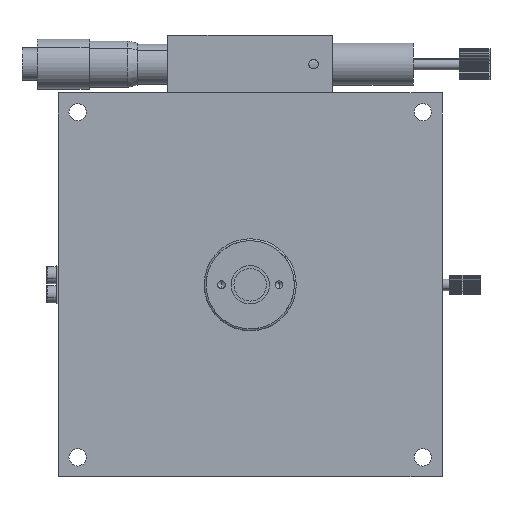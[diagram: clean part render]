
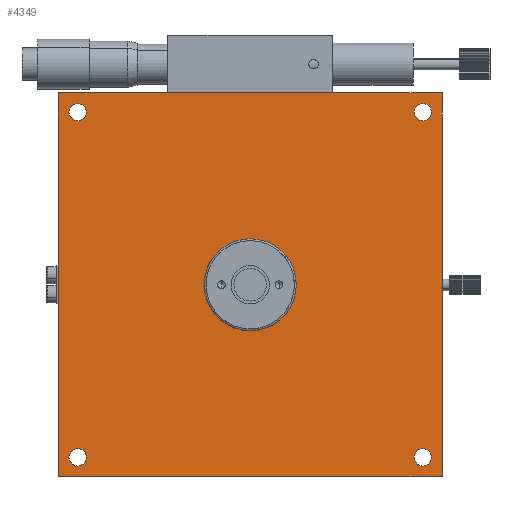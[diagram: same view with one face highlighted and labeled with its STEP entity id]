
A CAD part, front view. The second image highlights one B-rep face of the part: STEP entity #4349.
In plain terms, the highlighted planar face has unit normal (0, -1, 0).
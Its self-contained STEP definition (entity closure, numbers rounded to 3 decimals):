
#77 = CARTESIAN_POINT ( 'NONE',  ( 48.406, -8.658, -45. ) ) ;
#355 = EDGE_CURVE ( 'NONE', #3310, #3269, #11134, .T. ) ;
#428 = DIRECTION ( 'NONE',  ( 0., 0., 1. ) ) ;
#462 = ORIENTED_EDGE ( 'NONE', *, *, #5047, .T. ) ;
#494 = CARTESIAN_POINT ( 'NONE',  ( 48.406, -8.658, -47.25 ) ) ;
#558 = CARTESIAN_POINT ( 'NONE',  ( -41.594, -8.658, 45. ) ) ;
#591 = EDGE_CURVE ( 'NONE', #3269, #3310, #10978, .T. ) ;
#599 = CIRCLE ( 'NONE', #6484, 2.25 ) ;
#788 = EDGE_CURVE ( 'NONE', #6440, #1341, #7957, .T. ) ;
#1150 = ORIENTED_EDGE ( 'NONE', *, *, #8496, .F. ) ;
#1196 = LINE ( 'NONE', #4458, #11166 ) ;
#1285 = EDGE_LOOP ( 'NONE', ( #8394, #7819 ) ) ;
#1341 = VERTEX_POINT ( 'NONE', #7207 ) ;
#1480 = VERTEX_POINT ( 'NONE', #10465 ) ;
#1482 = CARTESIAN_POINT ( 'NONE',  ( -41.594, -8.658, -42.75 ) ) ;
#1499 = VERTEX_POINT ( 'NONE', #4611 ) ;
#1554 = DIRECTION ( 'NONE',  ( 0., 0., 1. ) ) ;
#1615 = AXIS2_PLACEMENT_3D ( 'NONE', #11067, #4108, #5117 ) ;
#1948 = DIRECTION ( 'NONE',  ( 0., 0., 1. ) ) ;
#2038 = DIRECTION ( 'NONE',  ( 0., 1., 0. ) ) ;
#2084 = DIRECTION ( 'NONE',  ( 0., 0., 1. ) ) ;
#2115 = EDGE_CURVE ( 'NONE', #2877, #12310, #599, .T. ) ;
#2171 = FACE_BOUND ( 'NONE', #5684, .T. ) ;
#2174 = AXIS2_PLACEMENT_3D ( 'NONE', #2868, #2038, #1948 ) ;
#2277 = EDGE_CURVE ( 'NONE', #9054, #9121, #11664, .T. ) ;
#2482 = DIRECTION ( 'NONE',  ( 0., 0., 1. ) ) ;
#2511 = ORIENTED_EDGE ( 'NONE', *, *, #4462, .F. ) ;
#2582 = CARTESIAN_POINT ( 'NONE',  ( 48.406, -8.658, -42.75 ) ) ;
#2781 = DIRECTION ( 'NONE',  ( 1., 0., 0. ) ) ;
#2792 = ORIENTED_EDGE ( 'NONE', *, *, #7949, .F. ) ;
#2864 = EDGE_LOOP ( 'NONE', ( #1150, #10657, #2792, #2511 ) ) ;
#2868 = CARTESIAN_POINT ( 'NONE',  ( 48.406, -8.658, 45. ) ) ;
#2877 = VERTEX_POINT ( 'NONE', #12685 ) ;
#2907 = VECTOR ( 'NONE', #12574, 1000. ) ;
#2911 = DIRECTION ( 'NONE',  ( 0., 1., 0. ) ) ;
#3086 = CIRCLE ( 'NONE', #2174, 2.25 ) ;
#3095 = CARTESIAN_POINT ( 'NONE',  ( -41.594, -8.658, -45. ) ) ;
#3237 = DIRECTION ( 'NONE',  ( 0., 1., 0. ) ) ;
#3269 = VERTEX_POINT ( 'NONE', #1482 ) ;
#3310 = VERTEX_POINT ( 'NONE', #4081 ) ;
#3480 = EDGE_LOOP ( 'NONE', ( #12291, #5126 ) ) ;
#3546 = CIRCLE ( 'NONE', #9347, 2.25 ) ;
#3623 = DIRECTION ( 'NONE',  ( 0., 1., 0. ) ) ;
#3674 = CARTESIAN_POINT ( 'NONE',  ( 48.406, -8.658, 45. ) ) ;
#3737 = ORIENTED_EDGE ( 'NONE', *, *, #788, .F. ) ;
#3757 = CARTESIAN_POINT ( 'NONE',  ( 3.406, -8.658, 12. ) ) ;
#3851 = EDGE_CURVE ( 'NONE', #7655, #11463, #8493, .T. ) ;
#4081 = CARTESIAN_POINT ( 'NONE',  ( -41.594, -8.658, -47.25 ) ) ;
#4108 = DIRECTION ( 'NONE',  ( 0., 1., 0. ) ) ;
#4336 = CIRCLE ( 'NONE', #12234, 2.25 ) ;
#4349 = ADVANCED_FACE ( 'NONE', ( #2171, #4834, #10731, #12449, #9793, #7143 ), #10820, .F. ) ;
#4458 = CARTESIAN_POINT ( 'NONE',  ( -46.594, -8.658, -50. ) ) ;
#4462 = EDGE_CURVE ( 'NONE', #7026, #1499, #5595, .T. ) ;
#4611 = CARTESIAN_POINT ( 'NONE',  ( -46.594, -8.658, -50. ) ) ;
#4736 = CARTESIAN_POINT ( 'NONE',  ( 48.406, -8.658, 42.75 ) ) ;
#4824 = CARTESIAN_POINT ( 'NONE',  ( -41.594, -8.658, 45. ) ) ;
#4834 = FACE_BOUND ( 'NONE', #7467, .T. ) ;
#4989 = DIRECTION ( 'NONE',  ( 0., -1., 0. ) ) ;
#5047 = EDGE_CURVE ( 'NONE', #9121, #9054, #4336, .T. ) ;
#5117 = DIRECTION ( 'NONE',  ( 0., 0., 1. ) ) ;
#5126 = ORIENTED_EDGE ( 'NONE', *, *, #7438, .T. ) ;
#5344 = AXIS2_PLACEMENT_3D ( 'NONE', #4824, #11766, #5816 ) ;
#5378 = ORIENTED_EDGE ( 'NONE', *, *, #2277, .T. ) ;
#5442 = CARTESIAN_POINT ( 'NONE',  ( -46.594, -8.658, -50. ) ) ;
#5595 = LINE ( 'NONE', #5442, #10559 ) ;
#5684 = EDGE_LOOP ( 'NONE', ( #8293, #9188 ) ) ;
#5816 = DIRECTION ( 'NONE',  ( 0., 0., 1. ) ) ;
#5956 = CARTESIAN_POINT ( 'NONE',  ( -41.594, -8.658, 42.75 ) ) ;
#5973 = DIRECTION ( 'NONE',  ( 0., 1., 0. ) ) ;
#6322 = CIRCLE ( 'NONE', #5344, 2.25 ) ;
#6394 = DIRECTION ( 'NONE',  ( 0., -1., 0. ) ) ;
#6440 = VERTEX_POINT ( 'NONE', #3757 ) ;
#6484 = AXIS2_PLACEMENT_3D ( 'NONE', #558, #8527, #1554 ) ;
#6728 = CARTESIAN_POINT ( 'NONE',  ( -46.594, -8.658, 50. ) ) ;
#6879 = DIRECTION ( 'NONE',  ( 0., 0., 1. ) ) ;
#6939 = VERTEX_POINT ( 'NONE', #4736 ) ;
#7026 = VERTEX_POINT ( 'NONE', #8255 ) ;
#7143 = FACE_OUTER_BOUND ( 'NONE', #2864, .T. ) ;
#7207 = CARTESIAN_POINT ( 'NONE',  ( 3.406, -8.658, -12. ) ) ;
#7357 = VECTOR ( 'NONE', #2781, 1000. ) ;
#7438 = EDGE_CURVE ( 'NONE', #6939, #1480, #3546, .T. ) ;
#7467 = EDGE_LOOP ( 'NONE', ( #462, #5378 ) ) ;
#7612 = AXIS2_PLACEMENT_3D ( 'NONE', #3095, #8036, #9068 ) ;
#7655 = VERTEX_POINT ( 'NONE', #9871 ) ;
#7725 = EDGE_CURVE ( 'NONE', #1480, #6939, #3086, .T. ) ;
#7757 = AXIS2_PLACEMENT_3D ( 'NONE', #12833, #2911, #9864 ) ;
#7819 = ORIENTED_EDGE ( 'NONE', *, *, #12775, .T. ) ;
#7870 = DIRECTION ( 'NONE',  ( 0., 0., 1. ) ) ;
#7942 = EDGE_LOOP ( 'NONE', ( #3737, #10447 ) ) ;
#7949 = EDGE_CURVE ( 'NONE', #1499, #7655, #1196, .T. ) ;
#7957 = CIRCLE ( 'NONE', #8046, 12. ) ;
#8036 = DIRECTION ( 'NONE',  ( 0., 1., 0. ) ) ;
#8046 = AXIS2_PLACEMENT_3D ( 'NONE', #10943, #4989, #7870 ) ;
#8255 = CARTESIAN_POINT ( 'NONE',  ( 53.406, -8.658, -50. ) ) ;
#8293 = ORIENTED_EDGE ( 'NONE', *, *, #591, .T. ) ;
#8394 = ORIENTED_EDGE ( 'NONE', *, *, #2115, .T. ) ;
#8493 = LINE ( 'NONE', #6728, #7357 ) ;
#8496 = EDGE_CURVE ( 'NONE', #11463, #7026, #11157, .T. ) ;
#8527 = DIRECTION ( 'NONE',  ( 0., 1., 0. ) ) ;
#9054 = VERTEX_POINT ( 'NONE', #494 ) ;
#9068 = DIRECTION ( 'NONE',  ( 0., 0., 1. ) ) ;
#9121 = VERTEX_POINT ( 'NONE', #2582 ) ;
#9188 = ORIENTED_EDGE ( 'NONE', *, *, #355, .T. ) ;
#9347 = AXIS2_PLACEMENT_3D ( 'NONE', #3674, #3237, #6879 ) ;
#9570 = DIRECTION ( 'NONE',  ( 0., 0., 1. ) ) ;
#9571 = AXIS2_PLACEMENT_3D ( 'NONE', #77, #5973, #2084 ) ;
#9793 = FACE_BOUND ( 'NONE', #7942, .T. ) ;
#9864 = DIRECTION ( 'NONE',  ( 0., 0., 1. ) ) ;
#9871 = CARTESIAN_POINT ( 'NONE',  ( -46.594, -8.658, 50. ) ) ;
#10447 = ORIENTED_EDGE ( 'NONE', *, *, #11537, .F. ) ;
#10465 = CARTESIAN_POINT ( 'NONE',  ( 48.406, -8.658, 47.25 ) ) ;
#10557 = CARTESIAN_POINT ( 'NONE',  ( 53.406, -8.658, -50. ) ) ;
#10559 = VECTOR ( 'NONE', #11393, 1000. ) ;
#10572 = CARTESIAN_POINT ( 'NONE',  ( 48.406, -8.658, -45. ) ) ;
#10657 = ORIENTED_EDGE ( 'NONE', *, *, #3851, .F. ) ;
#10731 = FACE_BOUND ( 'NONE', #3480, .T. ) ;
#10820 = PLANE ( 'NONE',  #7757 ) ;
#10943 = CARTESIAN_POINT ( 'NONE',  ( 3.406, -8.658, 0. ) ) ;
#10978 = CIRCLE ( 'NONE', #7612, 2.25 ) ;
#11067 = CARTESIAN_POINT ( 'NONE',  ( -41.594, -8.658, -45. ) ) ;
#11134 = CIRCLE ( 'NONE', #1615, 2.25 ) ;
#11157 = LINE ( 'NONE', #10557, #2907 ) ;
#11166 = VECTOR ( 'NONE', #2482, 1000. ) ;
#11234 = CARTESIAN_POINT ( 'NONE',  ( 53.406, -8.658, 50. ) ) ;
#11393 = DIRECTION ( 'NONE',  ( -1., 0., 0. ) ) ;
#11463 = VERTEX_POINT ( 'NONE', #11234 ) ;
#11537 = EDGE_CURVE ( 'NONE', #1341, #6440, #11820, .T. ) ;
#11664 = CIRCLE ( 'NONE', #9571, 2.25 ) ;
#11766 = DIRECTION ( 'NONE',  ( 0., 1., 0. ) ) ;
#11820 = CIRCLE ( 'NONE', #12217, 12. ) ;
#12217 = AXIS2_PLACEMENT_3D ( 'NONE', #12365, #6394, #428 ) ;
#12234 = AXIS2_PLACEMENT_3D ( 'NONE', #10572, #3623, #9570 ) ;
#12291 = ORIENTED_EDGE ( 'NONE', *, *, #7725, .T. ) ;
#12310 = VERTEX_POINT ( 'NONE', #5956 ) ;
#12365 = CARTESIAN_POINT ( 'NONE',  ( 3.406, -8.658, 0. ) ) ;
#12449 = FACE_BOUND ( 'NONE', #1285, .T. ) ;
#12574 = DIRECTION ( 'NONE',  ( 0., 0., -1. ) ) ;
#12685 = CARTESIAN_POINT ( 'NONE',  ( -41.594, -8.658, 47.25 ) ) ;
#12775 = EDGE_CURVE ( 'NONE', #12310, #2877, #6322, .T. ) ;
#12833 = CARTESIAN_POINT ( 'NONE',  ( 3.406, -8.658, 0. ) ) ;
